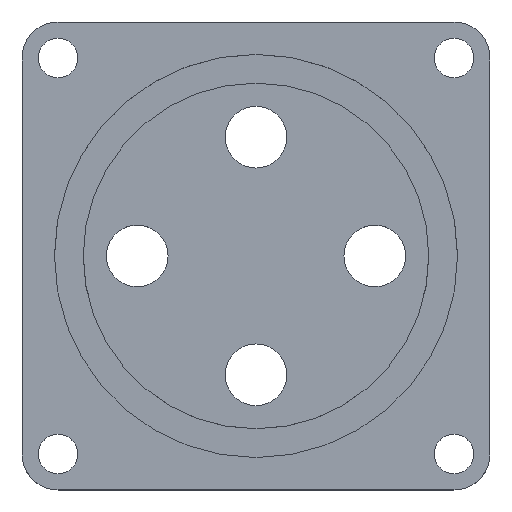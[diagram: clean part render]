
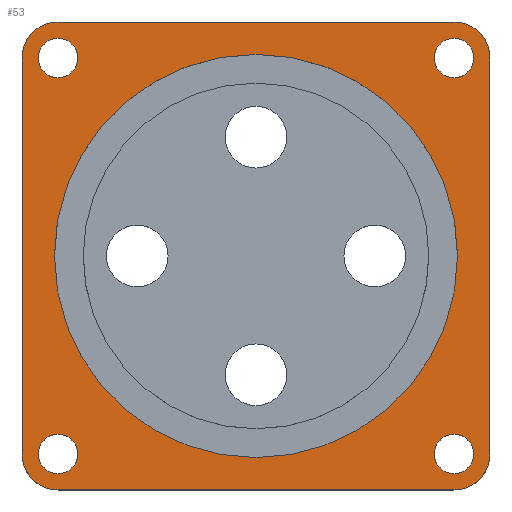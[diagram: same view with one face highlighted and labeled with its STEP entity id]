
A CAD part, top view. The second image highlights one B-rep face of the part: STEP entity #53.
In plain terms, the highlighted planar face has unit normal (0, 0, 1).
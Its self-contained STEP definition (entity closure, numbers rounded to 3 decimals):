
#53=ADVANCED_FACE('',(#287,#289,#291,#293,#295,#297),#299,.T.);
#287=FACE_BOUND('',#288,.T.);
#288=EDGE_LOOP('',(#533,#534,#535,#536,#537,#538,#539,#540));
#289=FACE_BOUND('',#290,.T.);
#290=EDGE_LOOP('',(#541));
#291=FACE_BOUND('',#292,.T.);
#292=EDGE_LOOP('',(#542));
#293=FACE_BOUND('',#294,.T.);
#294=EDGE_LOOP('',(#543));
#295=FACE_BOUND('',#296,.T.);
#296=EDGE_LOOP('',(#544));
#297=FACE_BOUND('',#298,.T.);
#298=EDGE_LOOP('',(#545));
#299=PLANE('',#300);
#300=AXIS2_PLACEMENT_3D('',#301,#302,#303);
#301=CARTESIAN_POINT('',(0.,0.,6.));
#302=DIRECTION('',(0.,0.,1.));
#303=DIRECTION('',(-1.,0.,0.));
#533=ORIENTED_EDGE('',*,*,#629,.F.);
#534=ORIENTED_EDGE('',*,*,#630,.T.);
#535=ORIENTED_EDGE('',*,*,#631,.F.);
#536=ORIENTED_EDGE('',*,*,#632,.T.);
#537=ORIENTED_EDGE('',*,*,#633,.F.);
#538=ORIENTED_EDGE('',*,*,#634,.T.);
#539=ORIENTED_EDGE('',*,*,#635,.F.);
#540=ORIENTED_EDGE('',*,*,#636,.T.);
#541=ORIENTED_EDGE('',*,*,#637,.T.);
#542=ORIENTED_EDGE('',*,*,#638,.T.);
#543=ORIENTED_EDGE('',*,*,#639,.T.);
#544=ORIENTED_EDGE('',*,*,#640,.T.);
#545=ORIENTED_EDGE('',*,*,#641,.T.);
#629=EDGE_CURVE('',#677,#678,#679,.F.);
#630=EDGE_CURVE('',#677,#680,#681,.T.);
#631=EDGE_CURVE('',#682,#680,#683,.F.);
#632=EDGE_CURVE('',#682,#684,#685,.T.);
#633=EDGE_CURVE('',#686,#684,#687,.F.);
#634=EDGE_CURVE('',#686,#688,#689,.T.);
#635=EDGE_CURVE('',#690,#688,#691,.F.);
#636=EDGE_CURVE('',#690,#678,#692,.T.);
#637=EDGE_CURVE('',#693,#693,#694,.T.);
#638=EDGE_CURVE('',#695,#695,#696,.T.);
#639=EDGE_CURVE('',#697,#697,#698,.T.);
#640=EDGE_CURVE('',#699,#699,#700,.T.);
#641=EDGE_CURVE('',#701,#701,#702,.F.);
#677=VERTEX_POINT('',#765);
#678=VERTEX_POINT('',#766);
#679=CIRCLE('',#767,5.);
#680=VERTEX_POINT('',#771);
#681=LINE('',#772,#773);
#682=VERTEX_POINT('',#775);
#683=CIRCLE('',#776,5.);
#684=VERTEX_POINT('',#780);
#685=LINE('',#781,#782);
#686=VERTEX_POINT('',#784);
#687=CIRCLE('',#785,5.);
#688=VERTEX_POINT('',#789);
#689=LINE('',#790,#791);
#690=VERTEX_POINT('',#793);
#691=CIRCLE('',#794,5.);
#692=LINE('',#798,#799);
#693=VERTEX_POINT('',#801);
#694=CIRCLE('',#802,2.75);
#695=VERTEX_POINT('',#806);
#696=CIRCLE('',#807,2.75);
#697=VERTEX_POINT('',#811);
#698=CIRCLE('',#812,2.75);
#699=VERTEX_POINT('',#816);
#700=CIRCLE('',#817,2.75);
#701=VERTEX_POINT('',#821);
#702=CIRCLE('',#822,28.);
#765=CARTESIAN_POINT('',(27.5,32.5,6.));
#766=CARTESIAN_POINT('',(32.5,27.5,6.));
#767=AXIS2_PLACEMENT_3D('',#768,#769,#770);
#768=CARTESIAN_POINT('',(27.5,27.5,6.));
#769=DIRECTION('',(0.,0.,1.));
#770=DIRECTION('',(1.,0.,0.));
#771=CARTESIAN_POINT('',(-27.5,32.5,6.));
#772=CARTESIAN_POINT('',(27.5,32.5,6.));
#773=VECTOR('',#774,1.);
#774=DIRECTION('',(-1.,0.,0.));
#775=CARTESIAN_POINT('',(-32.5,27.5,6.));
#776=AXIS2_PLACEMENT_3D('',#777,#778,#779);
#777=CARTESIAN_POINT('',(-27.5,27.5,6.));
#778=DIRECTION('',(0.,0.,1.));
#779=DIRECTION('',(0.,1.,0.));
#780=CARTESIAN_POINT('',(-32.5,-27.5,6.));
#781=CARTESIAN_POINT('',(-32.5,27.5,6.));
#782=VECTOR('',#783,1.);
#783=DIRECTION('',(0.,-1.,0.));
#784=CARTESIAN_POINT('',(-27.5,-32.5,6.));
#785=AXIS2_PLACEMENT_3D('',#786,#787,#788);
#786=CARTESIAN_POINT('',(-27.5,-27.5,6.));
#787=DIRECTION('',(0.,0.,1.));
#788=DIRECTION('',(-1.,0.,0.));
#789=CARTESIAN_POINT('',(27.5,-32.5,6.));
#790=CARTESIAN_POINT('',(-27.5,-32.5,6.));
#791=VECTOR('',#792,1.);
#792=DIRECTION('',(1.,0.,0.));
#793=CARTESIAN_POINT('',(32.5,-27.5,6.));
#794=AXIS2_PLACEMENT_3D('',#795,#796,#797);
#795=CARTESIAN_POINT('',(27.5,-27.5,6.));
#796=DIRECTION('',(0.,0.,1.));
#797=DIRECTION('',(0.,-1.,0.));
#798=CARTESIAN_POINT('',(32.5,-27.5,6.));
#799=VECTOR('',#800,1.);
#800=DIRECTION('',(0.,1.,0.));
#801=CARTESIAN_POINT('',(-24.75,-27.5,6.));
#802=AXIS2_PLACEMENT_3D('',#803,#804,#805);
#803=CARTESIAN_POINT('',(-27.5,-27.5,6.));
#804=DIRECTION('',(0.,0.,-1.));
#805=DIRECTION('',(1.,0.,0.));
#806=CARTESIAN_POINT('',(-24.75,27.5,6.));
#807=AXIS2_PLACEMENT_3D('',#808,#809,#810);
#808=CARTESIAN_POINT('',(-27.5,27.5,6.));
#809=DIRECTION('',(0.,0.,-1.));
#810=DIRECTION('',(1.,0.,0.));
#811=CARTESIAN_POINT('',(30.25,27.5,6.));
#812=AXIS2_PLACEMENT_3D('',#813,#814,#815);
#813=CARTESIAN_POINT('',(27.5,27.5,6.));
#814=DIRECTION('',(0.,0.,-1.));
#815=DIRECTION('',(1.,0.,0.));
#816=CARTESIAN_POINT('',(30.25,-27.5,6.));
#817=AXIS2_PLACEMENT_3D('',#818,#819,#820);
#818=CARTESIAN_POINT('',(27.5,-27.5,6.));
#819=DIRECTION('',(0.,0.,-1.));
#820=DIRECTION('',(1.,0.,0.));
#821=CARTESIAN_POINT('',(-28.,0.,6.));
#822=AXIS2_PLACEMENT_3D('',#823,#824,#825);
#823=CARTESIAN_POINT('',(0.,0.,6.));
#824=DIRECTION('',(0.,0.,1.));
#825=DIRECTION('',(-1.,0.,0.));
